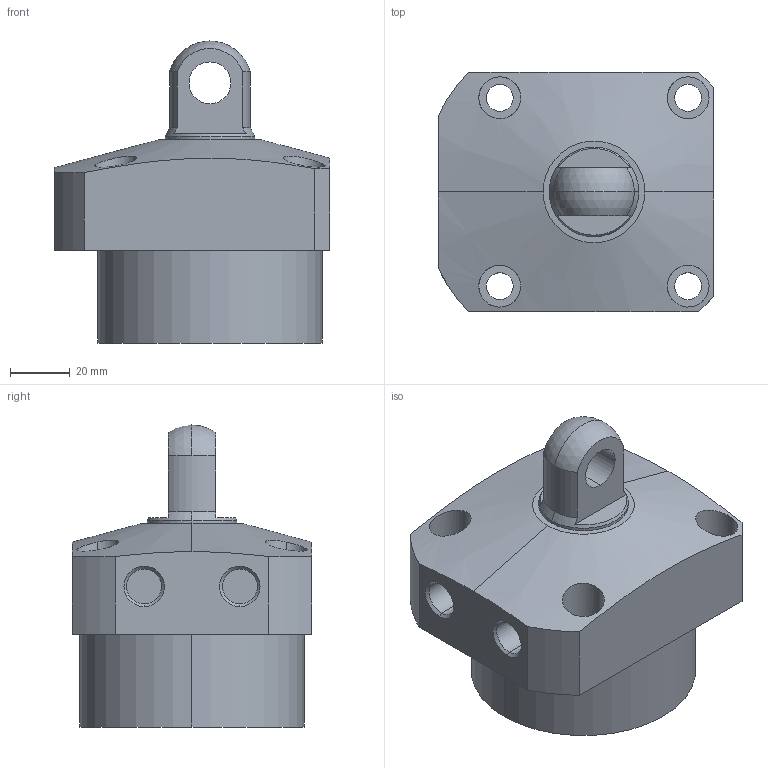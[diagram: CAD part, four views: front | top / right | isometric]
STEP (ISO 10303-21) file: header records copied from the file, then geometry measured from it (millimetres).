
FILE_DESCRIPTION (( 'STEP AP203' ), '1' );
FILE_NAME ('CLL-075CP-(1-14).STEP', '2019-12-20T08:16:38', ( '' ), ( '' ), 'SwSTEP 2.0', 'SolidWorks 2015', '' );
FILE_SCHEMA (( 'CONFIG_CONTROL_DESIGN' ));
Length unit declared in the file: millimetre
Products named in the file (1): CLL-075CP-(1-14)
Bounding box: 92 x 80 x 101 mm (x, y, z)
Volume: 366423.6 mm3; surface area: 38573.8 mm2
Topology: 1 solids, 1 shells, 66 faces, 155 edges, 101 vertices
Faces by surface type: cylinder 35, plane 21, cone 8, sphere 2
Entity records: 2408 total; most frequent: CARTESIAN_POINT 755, DIRECTION 345, ORIENTED_EDGE 310, EDGE_CURVE 155, AXIS2_PLACEMENT_3D 143, VERTEX_POINT 101, EDGE_LOOP 86, CIRCLE 76
